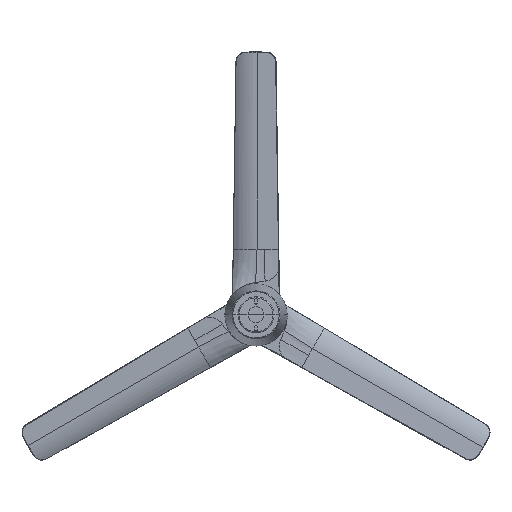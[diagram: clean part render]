
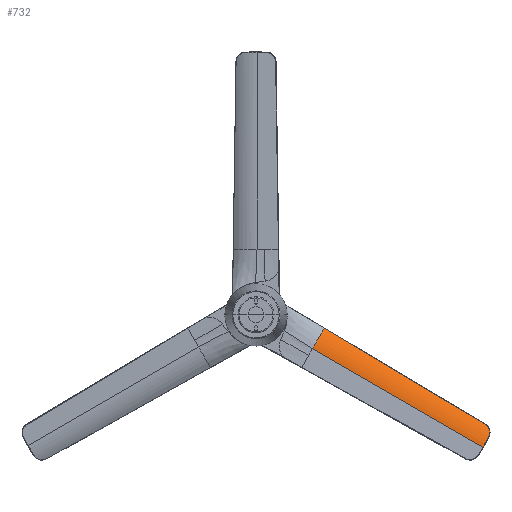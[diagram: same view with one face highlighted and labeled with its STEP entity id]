
A CAD part, top view. The second image highlights one B-rep face of the part: STEP entity #732.
In plain terms, the highlighted cylindrical face has radius 99 mm (diameter 198 mm), a partial arc.
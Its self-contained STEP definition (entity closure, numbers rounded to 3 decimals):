
#732=ADVANCED_FACE('',(#991),#4408,.T.);
#991=FACE_OUTER_BOUND('',#1264,.T.);
#1264=EDGE_LOOP('',(#2062,#2063,#2064,#2065,#2066));
#2062=ORIENTED_EDGE('',*,*,#2941,.F.);
#2063=ORIENTED_EDGE('',*,*,#2942,.T.);
#2064=ORIENTED_EDGE('',*,*,#2943,.T.);
#2065=ORIENTED_EDGE('',*,*,#2946,.T.);
#2066=ORIENTED_EDGE('',*,*,#2944,.T.);
#2941=EDGE_CURVE('',#4150,#4151,#3710,.T.);
#2942=EDGE_CURVE('',#4150,#4152,#3711,.T.);
#2943=EDGE_CURVE('',#4152,#4153,#3712,.T.);
#2944=EDGE_CURVE('',#4154,#4151,#3713,.T.);
#2946=EDGE_CURVE('',#4153,#4154,#3715,.T.);
#3710=B_SPLINE_CURVE_WITH_KNOTS('',3,(#13555,#13556,#13557,#13558,#13559,
#13560,#13561,#13562),.UNSPECIFIED.,.F.,.F.,(4,1,1,1,1,4),(-29.972,
-23.977,-17.983,-11.989,-5.994,
0.),.UNSPECIFIED.);
#3711=B_SPLINE_CURVE_WITH_KNOTS('',3,(#13563,#13564,#13565,#13566,#13567,
#13568,#13569,#13570),.UNSPECIFIED.,.F.,.F.,(4,1,1,1,1,4),(0.,7.853,
15.706,23.559,31.412,39.265),
 .UNSPECIFIED.);
#3712=B_SPLINE_CURVE_WITH_KNOTS('',3,(#13571,#13572,#13573,#13574,#13575,
#13576,#13577,#13578),.UNSPECIFIED.,.F.,.F.,(4,1,1,1,1,4),(0.,94.088,
188.175,282.263,376.351,470.438),
 .UNSPECIFIED.);
#3713=B_SPLINE_CURVE_WITH_KNOTS('',1,(#13579,#13580),.UNSPECIFIED.,.F.,
 .F.,(2,2),(0.,494.495),.UNSPECIFIED.);
#3715=B_SPLINE_CURVE_WITH_KNOTS('',3,(#13588,#13589,#13590,#13591,#13592),
 .UNSPECIFIED.,.F.,.F.,(4,1,4),(-65.971,-32.985,0.),
 .UNSPECIFIED.);
#4150=VERTEX_POINT('',#13296);
#4151=VERTEX_POINT('',#13297);
#4152=VERTEX_POINT('',#13298);
#4153=VERTEX_POINT('',#13299);
#4154=VERTEX_POINT('',#13300);
#4408=CYLINDRICAL_SURFACE('',#4761,99.);
#4761=AXIS2_PLACEMENT_3D('',#11598,#5064,$);
#5064=DIRECTION('',(-0.866,0.5,0.));
#11598=CARTESIAN_POINT('',(920.066,-2224.56,-34.673));
#13296=CARTESIAN_POINT('',(1155.697,-2320.876,58.156));
#13297=CARTESIAN_POINT('',(1141.536,-2346.443,64.191));
#13298=CARTESIAN_POINT('',(1146.876,-2288.907,45.79));
#13299=CARTESIAN_POINT('',(743.079,-2047.601,40.21));
#13300=CARTESIAN_POINT('',(713.291,-2099.196,64.191));
#13555=CARTESIAN_POINT('',(1155.697,-2320.876,58.156));
#13556=CARTESIAN_POINT('',(1154.824,-2322.537,58.852));
#13557=CARTESIAN_POINT('',(1153.044,-2325.889,60.128));
#13558=CARTESIAN_POINT('',(1150.282,-2330.982,61.693));
#13559=CARTESIAN_POINT('',(1147.439,-2336.12,62.905));
#13560=CARTESIAN_POINT('',(1144.523,-2341.281,63.758));
#13561=CARTESIAN_POINT('',(1142.537,-2344.725,64.087));
#13562=CARTESIAN_POINT('',(1141.536,-2346.443,64.191));
#13563=CARTESIAN_POINT('',(1155.697,-2320.876,58.156));
#13564=CARTESIAN_POINT('',(1156.908,-2318.665,57.248));
#13565=CARTESIAN_POINT('',(1158.559,-2313.684,55.063));
#13566=CARTESIAN_POINT('',(1158.639,-2305.71,51.446));
#13567=CARTESIAN_POINT('',(1156.233,-2298.41,48.262));
#13568=CARTESIAN_POINT('',(1152.08,-2292.652,46.261));
#13569=CARTESIAN_POINT('',(1148.641,-2289.948,45.79));
#13570=CARTESIAN_POINT('',(1146.876,-2288.907,45.79));
#13571=CARTESIAN_POINT('',(1146.876,-2288.907,45.79));
#13572=CARTESIAN_POINT('',(1119.009,-2272.254,45.439));
#13573=CARTESIAN_POINT('',(1063.639,-2239.165,44.73));
#13574=CARTESIAN_POINT('',(981.703,-2190.201,43.64));
#13575=CARTESIAN_POINT('',(900.91,-2141.92,42.523));
#13576=CARTESIAN_POINT('',(821.293,-2094.341,41.382));
#13577=CARTESIAN_POINT('',(769.014,-2063.1,40.603));
#13578=CARTESIAN_POINT('',(743.079,-2047.601,40.21));
#13579=CARTESIAN_POINT('',(713.291,-2099.196,64.191));
#13580=CARTESIAN_POINT('',(1141.536,-2346.443,64.191));
#13588=CARTESIAN_POINT('',(743.079,-2047.601,40.21));
#13589=CARTESIAN_POINT('',(738.78,-2055.046,47.517));
#13590=CARTESIAN_POINT('',(729.517,-2071.091,58.821));
#13591=CARTESIAN_POINT('',(718.922,-2089.443,63.505));
#13592=CARTESIAN_POINT('',(713.291,-2099.196,64.191));
